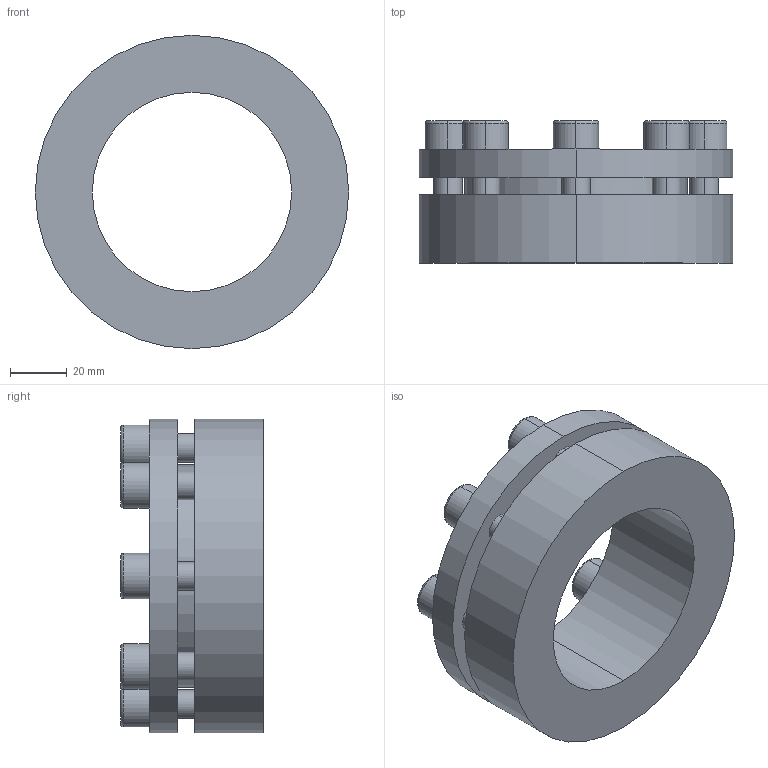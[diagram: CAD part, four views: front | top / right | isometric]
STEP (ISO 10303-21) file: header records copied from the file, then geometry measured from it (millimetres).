
FILE_DESCRIPTION (( 'STEP AP203' ), '1' );
FILE_NAME ('PL-H3 70-110.STEP', '2021-10-23T01:08:53', ( '' ), ( '' ), 'SwSTEP 2.0', 'SolidWorks 2018', '' );
FILE_SCHEMA (( 'CONFIG_CONTROL_DESIGN' ));
Length unit declared in the file: millimetre
Products named in the file (1): PL-H3 70-110
Bounding box: 110 x 50 x 110 mm (x, y, z)
Volume: 215398.9 mm3; surface area: 47980.9 mm2
Topology: 1 solids, 1 shells, 124 faces, 296 edges, 192 vertices
Faces by surface type: plane 68, cylinder 40, torus 16
Entity records: 3717 total; most frequent: DIRECTION 658, CARTESIAN_POINT 613, ORIENTED_EDGE 592, EDGE_CURVE 296, AXIS2_PLACEMENT_3D 237, VERTEX_POINT 192, VECTOR 184, LINE 184
